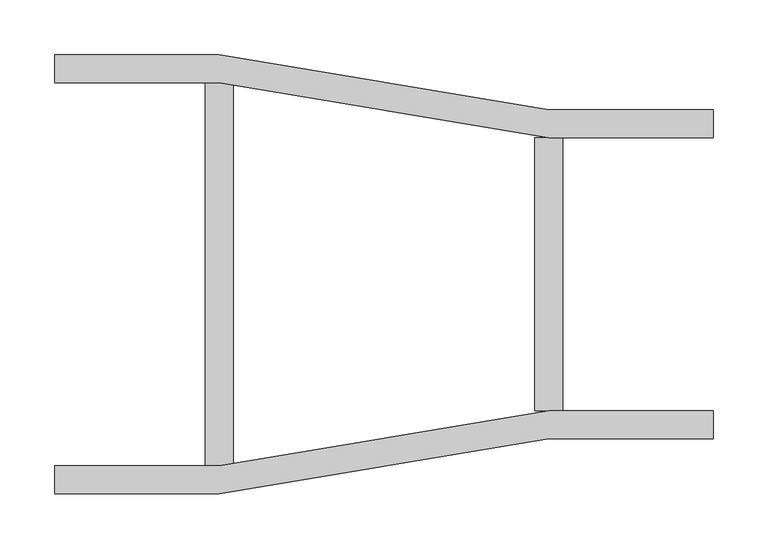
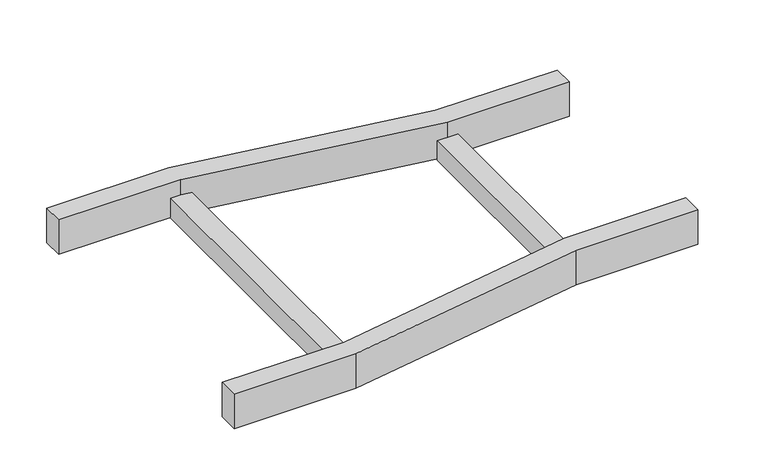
"""IFC4 building model written with IfcOpenShell, lengths in millimetres: cable carrier fitting geometry, BAKS_LD_RED_Straight reducer_RD : RD(S/L/P)C_H45."""

from ifc_helpers import new_model, si_unit, frame, origin, place, context, project, spatial, polyline, outline, extrude, source, transform, mapped, element, save


def cable_carrier_fitting_28cc8021(model_context):
    return source(origin(), model_context, "Body", "SweptSolid", [
        extrude(outline(polyline([(0.0, -200.0), (0.0, -174.6), (150.0, -174.6), (450.0, -124.6), (600.0, -124.6), (600.0, -150.0), (450.0, -150.0), (150.0, -200.0), (0.0, -200.0)])), frame((0.0, 0.0, -22.5), z_axis=(0.0, 0.0, 1.0), x_axis=(1.0, 0.0, 0.0)), (0.0, 0.0, 1.0), 45.0),
        extrude(outline(polyline([(0.0, 174.6), (0.0, 200.0), (150.0, 200.0), (450.0, 150.0), (600.0, 150.0), (600.0, 124.6), (450.0, 124.6), (150.0, 174.6), (0.0, 174.6)])), frame((0.0, 0.0, -22.5), z_axis=(0.0, 0.0, 1.0), x_axis=(1.0, 0.0, 0.0)), (0.0, 0.0, 1.0), 45.0),
        extrude(outline(polyline([(437.3, 124.6), (462.7, 124.6), (462.7, -124.6), (437.3, -124.6), (437.3, 124.6)])), frame((0.0, 0.0, -22.5), z_axis=(0.0, 0.0, 1.0), x_axis=(1.0, 0.0, 0.0)), (0.0, 0.0, 1.0), 25.4),
        extrude(outline(polyline([(137.3, 174.6), (162.7, 174.6), (162.7, -174.6), (137.3, -174.6), (137.3, 174.6)])), frame((0.0, 0.0, -22.5), z_axis=(0.0, 0.0, 1.0), x_axis=(1.0, 0.0, 0.0)), (0.0, 0.0, 1.0), 25.4),
    ])


if __name__ == "__main__":
    model = new_model("IFC4")
    model_context = context("Model", 3, world=origin())
    ifc_project = project(units=[si_unit("LENGTHUNIT", "METRE", prefix="MILLI")], contexts=[model_context])
    site = spatial("IfcSite", under=ifc_project)
    building = spatial("IfcBuilding", under=site)
    placement = place(None, origin())
    cable_carrier_fitting_shape = cable_carrier_fitting_28cc8021(model_context)
    element("IfcCableCarrierFitting", 1, ObjectType="BAKS_LD_RED_Straight reducer_RD : RD(S/L/P)C_H45", at=placement, inside=building, context=model_context, shape_type="MappedRepresentation", body=[
        mapped(cable_carrier_fitting_shape, transform((0.0, 0.0, 0.0), x_axis=(1.0, 0.0, 0.0), y_axis=(0.0, 1.0, 0.0), z_axis=(0.0, 0.0, 1.0))),
    ])
    save(model, "model.ifc")
